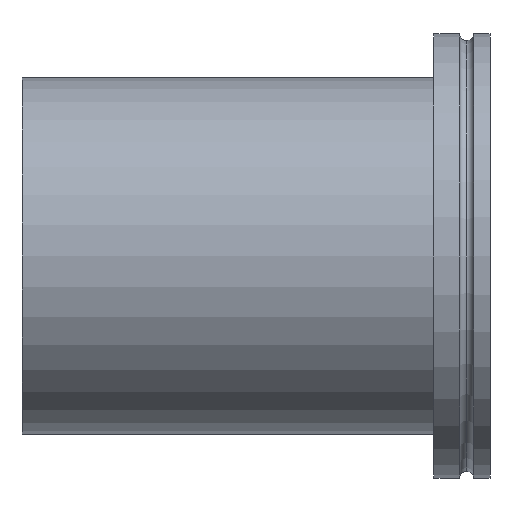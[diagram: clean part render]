
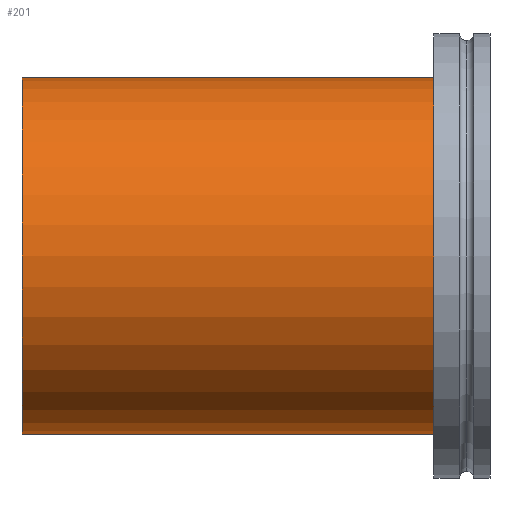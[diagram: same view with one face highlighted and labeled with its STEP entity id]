
A CAD part, left-side view. The second image highlights one B-rep face of the part: STEP entity #201.
In plain terms, the highlighted cylindrical face has radius 38.05 mm (diameter 76.1 mm), a partial arc.
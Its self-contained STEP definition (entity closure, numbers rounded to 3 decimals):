
#8 = AXIS2_PLACEMENT_3D ( 'NONE', #332, #118, #505 ) ;
#48 = DIRECTION ( 'NONE',  ( 0., -1., 0. ) ) ;
#56 = VERTEX_POINT ( 'NONE', #532 ) ;
#67 = FACE_OUTER_BOUND ( 'NONE', #437, .T. ) ;
#106 = CARTESIAN_POINT ( 'NONE',  ( 0., 100., 38.05 ) ) ;
#118 = DIRECTION ( 'NONE',  ( 0., -1., 0. ) ) ;
#119 = DIRECTION ( 'NONE',  ( 0., 1., 0. ) ) ;
#128 = CYLINDRICAL_SURFACE ( 'NONE', #8, 38.05 ) ;
#160 = VERTEX_POINT ( 'NONE', #444 ) ;
#164 = VECTOR ( 'NONE', #48, 1000. ) ;
#191 = EDGE_CURVE ( 'NONE', #56, #356, #544, .T. ) ;
#201 = ADVANCED_FACE ( 'NONE', ( #67 ), #128, .T. ) ;
#204 = DIRECTION ( 'NONE',  ( 0., -1., 0. ) ) ;
#209 = DIRECTION ( 'NONE',  ( 0., 0., 1. ) ) ;
#223 = VECTOR ( 'NONE', #204, 1000. ) ;
#252 = ORIENTED_EDGE ( 'NONE', *, *, #688, .F. ) ;
#262 = CARTESIAN_POINT ( 'NONE',  ( 0., 100., -38.05 ) ) ;
#273 = ORIENTED_EDGE ( 'NONE', *, *, #450, .F. ) ;
#274 = DIRECTION ( 'NONE',  ( 0., 1., 0. ) ) ;
#311 = LINE ( 'NONE', #262, #223 ) ;
#328 = AXIS2_PLACEMENT_3D ( 'NONE', #514, #119, #209 ) ;
#332 = CARTESIAN_POINT ( 'NONE',  ( 0., 100., 0. ) ) ;
#356 = VERTEX_POINT ( 'NONE', #516 ) ;
#434 = VERTEX_POINT ( 'NONE', #693 ) ;
#437 = EDGE_LOOP ( 'NONE', ( #273, #252, #579, #562 ) ) ;
#444 = CARTESIAN_POINT ( 'NONE',  ( 0., 100., -38.05 ) ) ;
#450 = EDGE_CURVE ( 'NONE', #434, #356, #477, .T. ) ;
#459 = DIRECTION ( 'NONE',  ( 0., 0., 1. ) ) ;
#477 = LINE ( 'NONE', #106, #164 ) ;
#505 = DIRECTION ( 'NONE',  ( 0., 0., -1. ) ) ;
#514 = CARTESIAN_POINT ( 'NONE',  ( 0., 8., 0. ) ) ;
#516 = CARTESIAN_POINT ( 'NONE',  ( 0., 8., 38.05 ) ) ;
#520 = CARTESIAN_POINT ( 'NONE',  ( 0., 100., 0. ) ) ;
#525 = EDGE_CURVE ( 'NONE', #160, #56, #311, .T. ) ;
#532 = CARTESIAN_POINT ( 'NONE',  ( 0., 8., -38.05 ) ) ;
#544 = CIRCLE ( 'NONE', #328, 38.05 ) ;
#562 = ORIENTED_EDGE ( 'NONE', *, *, #191, .T. ) ;
#579 = ORIENTED_EDGE ( 'NONE', *, *, #525, .T. ) ;
#626 = AXIS2_PLACEMENT_3D ( 'NONE', #520, #274, #459 ) ;
#628 = CIRCLE ( 'NONE', #626, 38.05 ) ;
#688 = EDGE_CURVE ( 'NONE', #160, #434, #628, .T. ) ;
#693 = CARTESIAN_POINT ( 'NONE',  ( 0., 100., 38.05 ) ) ;
